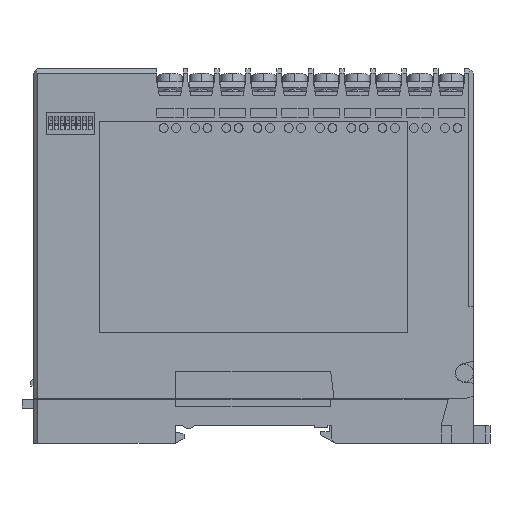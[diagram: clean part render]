
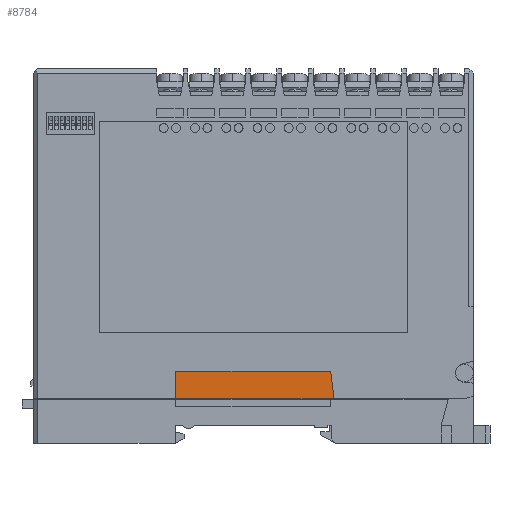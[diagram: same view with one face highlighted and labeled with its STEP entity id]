
A CAD part, left-side view. The second image highlights one B-rep face of the part: STEP entity #8784.
In plain terms, the highlighted planar face has unit normal (-1, 0, 0).
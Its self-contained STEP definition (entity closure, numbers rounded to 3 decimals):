
#2360 = VERTEX_POINT ( 'NONE', #4666 ) ;
#2863 = DIRECTION ( 'NONE',  ( 0., 0., -1. ) ) ;
#4666 = CARTESIAN_POINT ( 'NONE',  ( 0.2, 67.6, -68.7 ) ) ;
#7250 = AXIS2_PLACEMENT_3D ( 'NONE', #12592, #27371, #58141 ) ;
#8784 = ADVANCED_FACE ( 'NONE', ( #26786 ), #9043, .F. ) ;
#8834 = CARTESIAN_POINT ( 'NONE',  ( 0.2, 31.613, -75. ) ) ;
#9043 = PLANE ( 'NONE',  #7250 ) ;
#10055 = ORIENTED_EDGE ( 'NONE', *, *, #39542, .F. ) ;
#10758 = DIRECTION ( 'NONE',  ( 0., 0.124, 0.992 ) ) ;
#11542 = VECTOR ( 'NONE', #2863, 1000. ) ;
#11739 = CARTESIAN_POINT ( 'NONE',  ( 0.2, 67.6, -75. ) ) ;
#12592 = CARTESIAN_POINT ( 'NONE',  ( 0.2, 0., 0. ) ) ;
#18381 = CARTESIAN_POINT ( 'NONE',  ( 0.2, 67.6, -75. ) ) ;
#19042 = LINE ( 'NONE', #41808, #38822 ) ;
#20780 = LINE ( 'NONE', #56861, #23415 ) ;
#22775 = CARTESIAN_POINT ( 'NONE',  ( 0.2, 67.6, -68.7 ) ) ;
#23250 = VERTEX_POINT ( 'NONE', #54147 ) ;
#23415 = VECTOR ( 'NONE', #34947, 1000. ) ;
#24603 = EDGE_CURVE ( 'NONE', #32404, #23250, #19042, .T. ) ;
#26786 = FACE_OUTER_BOUND ( 'NONE', #41181, .T. ) ;
#27371 = DIRECTION ( 'NONE',  ( 1., 0., 0. ) ) ;
#28083 = DIRECTION ( 'NONE',  ( 0., 1., 0. ) ) ;
#30273 = VERTEX_POINT ( 'NONE', #18381 ) ;
#32404 = VERTEX_POINT ( 'NONE', #8834 ) ;
#32690 = EDGE_CURVE ( 'NONE', #2360, #30273, #52263, .T. ) ;
#32972 = ORIENTED_EDGE ( 'NONE', *, *, #46711, .T. ) ;
#34947 = DIRECTION ( 'NONE',  ( 0., 1., 0. ) ) ;
#38822 = VECTOR ( 'NONE', #10758, 1000. ) ;
#39542 = EDGE_CURVE ( 'NONE', #32404, #30273, #20780, .T. ) ;
#41181 = EDGE_LOOP ( 'NONE', ( #10055, #52101, #32972, #45191 ) ) ;
#41808 = CARTESIAN_POINT ( 'NONE',  ( 0.2, 32.4, -68.7 ) ) ;
#45191 = ORIENTED_EDGE ( 'NONE', *, *, #32690, .T. ) ;
#46711 = EDGE_CURVE ( 'NONE', #23250, #2360, #50570, .T. ) ;
#50570 = LINE ( 'NONE', #22775, #58274 ) ;
#52101 = ORIENTED_EDGE ( 'NONE', *, *, #24603, .T. ) ;
#52263 = LINE ( 'NONE', #11739, #11542 ) ;
#54147 = CARTESIAN_POINT ( 'NONE',  ( 0.2, 32.4, -68.7 ) ) ;
#56861 = CARTESIAN_POINT ( 'NONE',  ( 0.2, 5.66, -75. ) ) ;
#58141 = DIRECTION ( 'NONE',  ( 0., 0., -1. ) ) ;
#58274 = VECTOR ( 'NONE', #28083, 1000. ) ;
